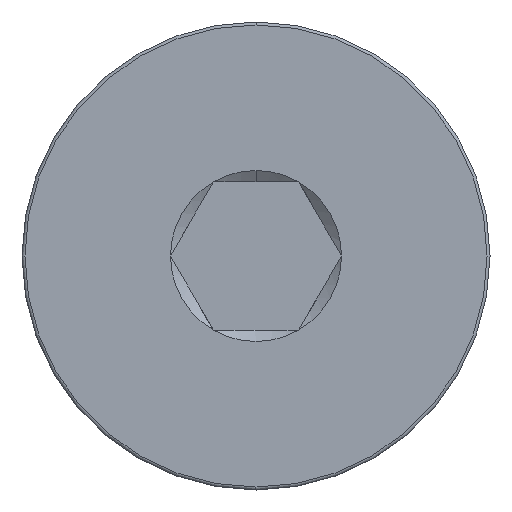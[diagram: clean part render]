
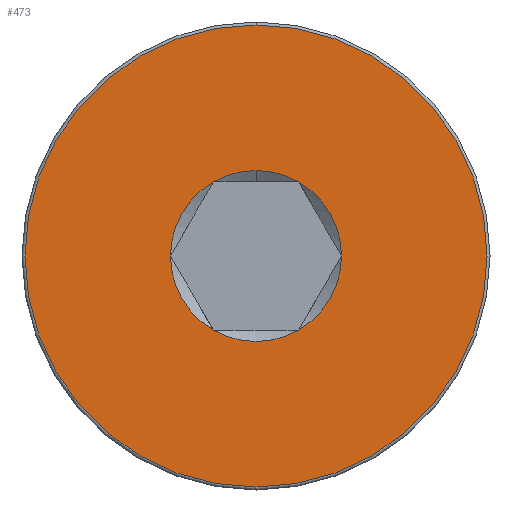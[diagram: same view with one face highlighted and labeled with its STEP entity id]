
A CAD part, left-side view. The second image highlights one B-rep face of the part: STEP entity #473.
In plain terms, the highlighted planar face has unit normal (-1, 0, 0).
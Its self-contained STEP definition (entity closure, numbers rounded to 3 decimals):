
#9 = ORIENTED_EDGE ( 'NONE', *, *, #682, .T. ) ;
#25 = VERTEX_POINT ( 'NONE', #350 ) ;
#32 = EDGE_CURVE ( 'NONE', #87, #257, #163, .T. ) ;
#35 = CARTESIAN_POINT ( 'NONE',  ( 0., 0., 0. ) ) ;
#36 = CARTESIAN_POINT ( 'NONE',  ( 0., 0., 0. ) ) ;
#46 = CARTESIAN_POINT ( 'NONE',  ( 0., 0., 0. ) ) ;
#49 = EDGE_CURVE ( 'NONE', #399, #250, #464, .T. ) ;
#54 = CIRCLE ( 'NONE', #459, 2.887 ) ;
#56 = CIRCLE ( 'NONE', #234, 2.887 ) ;
#62 = DIRECTION ( 'NONE',  ( 1., 0., 0. ) ) ;
#79 = VERTEX_POINT ( 'NONE', #92 ) ;
#86 = CARTESIAN_POINT ( 'NONE',  ( 0., -2.887, 0. ) ) ;
#87 = VERTEX_POINT ( 'NONE', #528 ) ;
#92 = CARTESIAN_POINT ( 'NONE',  ( 0., 2.887, 0. ) ) ;
#113 = CARTESIAN_POINT ( 'NONE',  ( 0., 0., 0. ) ) ;
#125 = DIRECTION ( 'NONE',  ( 0., 0., -1. ) ) ;
#129 = VERTEX_POINT ( 'NONE', #681 ) ;
#136 = EDGE_CURVE ( 'NONE', #25, #129, #648, .T. ) ;
#143 = EDGE_CURVE ( 'NONE', #204, #87, #660, .T. ) ;
#157 = CARTESIAN_POINT ( 'NONE',  ( 0., 0., 0. ) ) ;
#159 = EDGE_CURVE ( 'NONE', #79, #204, #368, .T. ) ;
#163 = CIRCLE ( 'NONE', #277, 2.887 ) ;
#175 = DIRECTION ( 'NONE',  ( 1., 0., 0. ) ) ;
#178 = DIRECTION ( 'NONE',  ( 1., 0., 0. ) ) ;
#197 = CARTESIAN_POINT ( 'NONE',  ( 0., -1.443, -2.5 ) ) ;
#198 = AXIS2_PLACEMENT_3D ( 'NONE', #36, #223, #344 ) ;
#199 = ORIENTED_EDGE ( 'NONE', *, *, #136, .T. ) ;
#204 = VERTEX_POINT ( 'NONE', #496 ) ;
#206 = CARTESIAN_POINT ( 'NONE',  ( 0., 0., 0. ) ) ;
#215 = PLANE ( 'NONE',  #198 ) ;
#223 = DIRECTION ( 'NONE',  ( -1., 0., 0. ) ) ;
#228 = DIRECTION ( 'NONE',  ( 0., 0., -1. ) ) ;
#234 = AXIS2_PLACEMENT_3D ( 'NONE', #46, #62, #352 ) ;
#250 = VERTEX_POINT ( 'NONE', #572 ) ;
#257 = VERTEX_POINT ( 'NONE', #688 ) ;
#260 = ORIENTED_EDGE ( 'NONE', *, *, #143, .T. ) ;
#264 = AXIS2_PLACEMENT_3D ( 'NONE', #157, #644, #228 ) ;
#271 = CIRCLE ( 'NONE', #763, 7.8 ) ;
#276 = CARTESIAN_POINT ( 'NONE',  ( 0., 0., 0. ) ) ;
#277 = AXIS2_PLACEMENT_3D ( 'NONE', #276, #711, #772 ) ;
#300 = AXIS2_PLACEMENT_3D ( 'NONE', #113, #794, #789 ) ;
#342 = FACE_OUTER_BOUND ( 'NONE', #375, .T. ) ;
#344 = DIRECTION ( 'NONE',  ( 0., 0., 1. ) ) ;
#350 = CARTESIAN_POINT ( 'NONE',  ( 0., 0., -7.8 ) ) ;
#352 = DIRECTION ( 'NONE',  ( 0., 0., -1. ) ) ;
#368 = CIRCLE ( 'NONE', #575, 2.887 ) ;
#370 = CARTESIAN_POINT ( 'NONE',  ( 0., 0., 0. ) ) ;
#375 = EDGE_LOOP ( 'NONE', ( #516, #199 ) ) ;
#391 = DIRECTION ( 'NONE',  ( 1., 0., 0. ) ) ;
#396 = DIRECTION ( 'NONE',  ( 1., 0., 0. ) ) ;
#399 = VERTEX_POINT ( 'NONE', #197 ) ;
#446 = ORIENTED_EDGE ( 'NONE', *, *, #159, .T. ) ;
#448 = ORIENTED_EDGE ( 'NONE', *, *, #49, .T. ) ;
#459 = AXIS2_PLACEMENT_3D ( 'NONE', #594, #391, #647 ) ;
#464 = CIRCLE ( 'NONE', #264, 2.887 ) ;
#473 = ADVANCED_FACE ( 'NONE', ( #527, #342 ), #215, .T. ) ;
#486 = CIRCLE ( 'NONE', #571, 2.887 ) ;
#496 = CARTESIAN_POINT ( 'NONE',  ( 0., 1.443, 2.5 ) ) ;
#508 = EDGE_CURVE ( 'NONE', #257, #727, #54, .T. ) ;
#516 = ORIENTED_EDGE ( 'NONE', *, *, #667, .T. ) ;
#517 = DIRECTION ( 'NONE',  ( 0., 0., 1. ) ) ;
#527 = FACE_BOUND ( 'NONE', #637, .T. ) ;
#528 = CARTESIAN_POINT ( 'NONE',  ( 0., 0., 2.887 ) ) ;
#551 = DIRECTION ( 'NONE',  ( 0., 0., -1. ) ) ;
#560 = ORIENTED_EDGE ( 'NONE', *, *, #652, .T. ) ;
#571 = AXIS2_PLACEMENT_3D ( 'NONE', #35, #396, #125 ) ;
#572 = CARTESIAN_POINT ( 'NONE',  ( 0., 1.443, -2.5 ) ) ;
#575 = AXIS2_PLACEMENT_3D ( 'NONE', #665, #178, #551 ) ;
#594 = CARTESIAN_POINT ( 'NONE',  ( 0., 0., 0. ) ) ;
#612 = DIRECTION ( 'NONE',  ( 0., 0., -1. ) ) ;
#637 = EDGE_LOOP ( 'NONE', ( #446, #260, #666, #769, #560, #448, #9 ) ) ;
#644 = DIRECTION ( 'NONE',  ( 1., 0., 0. ) ) ;
#647 = DIRECTION ( 'NONE',  ( 0., 0., -1. ) ) ;
#648 = CIRCLE ( 'NONE', #300, 7.8 ) ;
#652 = EDGE_CURVE ( 'NONE', #727, #399, #56, .T. ) ;
#660 = CIRCLE ( 'NONE', #755, 2.887 ) ;
#665 = CARTESIAN_POINT ( 'NONE',  ( 0., 0., 0. ) ) ;
#666 = ORIENTED_EDGE ( 'NONE', *, *, #32, .T. ) ;
#667 = EDGE_CURVE ( 'NONE', #129, #25, #271, .T. ) ;
#681 = CARTESIAN_POINT ( 'NONE',  ( 0., 0., 7.8 ) ) ;
#682 = EDGE_CURVE ( 'NONE', #250, #79, #486, .T. ) ;
#688 = CARTESIAN_POINT ( 'NONE',  ( 0., -1.443, 2.5 ) ) ;
#692 = DIRECTION ( 'NONE',  ( -1., 0., 0. ) ) ;
#711 = DIRECTION ( 'NONE',  ( 1., 0., 0. ) ) ;
#727 = VERTEX_POINT ( 'NONE', #86 ) ;
#755 = AXIS2_PLACEMENT_3D ( 'NONE', #370, #175, #612 ) ;
#763 = AXIS2_PLACEMENT_3D ( 'NONE', #206, #692, #517 ) ;
#769 = ORIENTED_EDGE ( 'NONE', *, *, #508, .T. ) ;
#772 = DIRECTION ( 'NONE',  ( 0., 0., -1. ) ) ;
#789 = DIRECTION ( 'NONE',  ( 0., 0., 1. ) ) ;
#794 = DIRECTION ( 'NONE',  ( -1., 0., 0. ) ) ;
